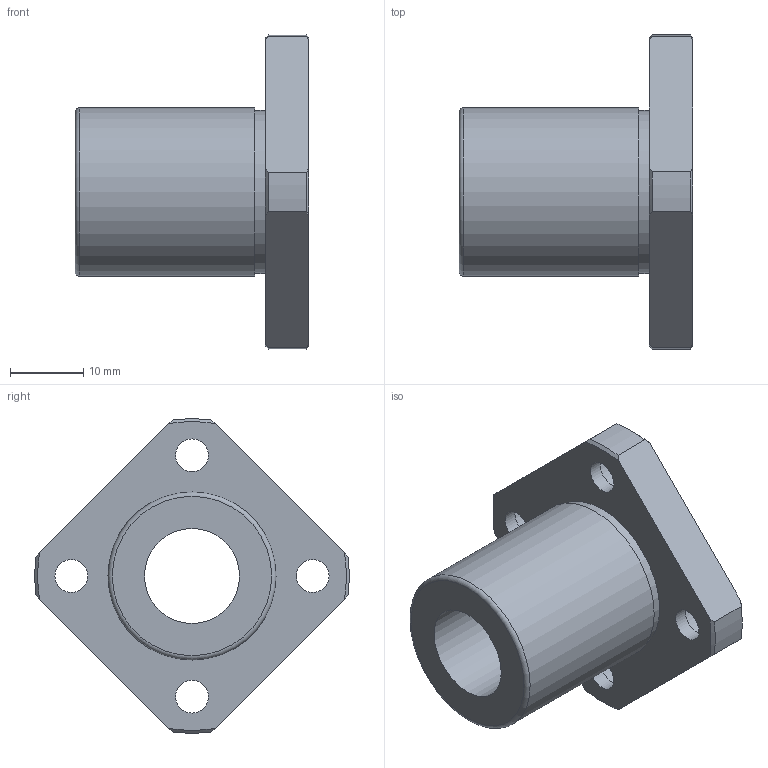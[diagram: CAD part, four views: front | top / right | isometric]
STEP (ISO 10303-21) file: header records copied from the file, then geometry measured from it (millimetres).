
FILE_DESCRIPTION(('STEP AP203'),'1');
FILE_NAME('//192.168.1.1/share/s-4 技術開発/s-4-4_CAD/s-4-4-3_見直し済み/002 修正済み/NF-V/NF-13TVUU.step','2022-03-08T06:42:37',(' '),(' '),'Spatial InterOp 3D',' ',' ');
FILE_SCHEMA(('CONFIG_CONTROL_DESIGN'));
Length unit declared in the file: millimetre
Products named in the file (1): 1
Bounding box: 32 x 42.96 x 42.96 mm (x, y, z)
Volume: 12439.7 mm3; surface area: 6323.5 mm2
Topology: 1 solids, 1 shells, 36 faces, 89 edges, 61 vertices
Faces by surface type: cylinder 15, plane 12, cone 8, torus 1
Full cylindrical faces by diameter (mm): 4.5 x4, 7.5 x4, 13 x1, 22.3 x1, 23 x1
Entity records: 1026 total; most frequent: CARTESIAN_POINT 195, DIRECTION 168, ORIENTED_EDGE 142, AXIS2_PLACEMENT_3D 76, EDGE_CURVE 71, EDGE_LOOP 64, VERTEX_POINT 55, FACE_OUTER_BOUND 48
